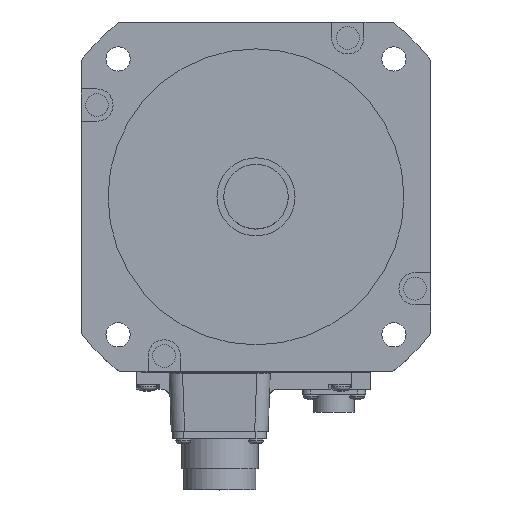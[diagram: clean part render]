
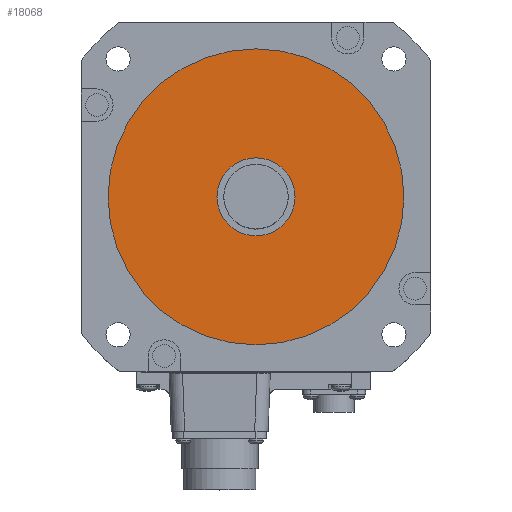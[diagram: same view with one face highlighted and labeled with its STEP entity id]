
A CAD part, top view. The second image highlights one B-rep face of the part: STEP entity #18068.
In plain terms, the highlighted planar face has unit normal (0, 0, 1).
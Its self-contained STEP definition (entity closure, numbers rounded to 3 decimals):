
#6530=CARTESIAN_POINT('',(0.,0.,3.));
#6531=DIRECTION('',(0.,0.,-1.));
#6532=DIRECTION('',(1.,0.,0.));
#6533=AXIS2_PLACEMENT_3D('',#6530,#6531,#6532);
#6535=CARTESIAN_POINT('',(0.,0.,3.));
#6536=DIRECTION('',(0.,0.,-1.));
#6537=DIRECTION('',(-1.,0.,0.));
#6538=AXIS2_PLACEMENT_3D('',#6535,#6536,#6537);
#6540=CARTESIAN_POINT('',(0.,0.,3.));
#6541=DIRECTION('',(0.,0.,1.));
#6542=DIRECTION('',(1.,0.,0.));
#6543=AXIS2_PLACEMENT_3D('',#6540,#6541,#6542);
#6545=CARTESIAN_POINT('',(0.,0.,3.));
#6546=DIRECTION('',(0.,0.,1.));
#6547=DIRECTION('',(-1.,0.,0.));
#6548=AXIS2_PLACEMENT_3D('',#6545,#6546,#6547);
#7320=CARTESIAN_POINT('',(55.,0.,3.));
#7321=VERTEX_POINT('',#7320);
#7322=CARTESIAN_POINT('',(-55.,0.,3.));
#7323=VERTEX_POINT('',#7322);
#8529=CARTESIAN_POINT('',(14.5,0.,3.));
#8530=CARTESIAN_POINT('',(-14.5,0.,3.));
#8531=VERTEX_POINT('',#8529);
#8532=VERTEX_POINT('',#8530);
#18052=CARTESIAN_POINT('',(0.,0.,3.));
#18053=DIRECTION('',(0.,0.,1.));
#18054=DIRECTION('',(1.,0.,0.));
#18055=AXIS2_PLACEMENT_3D('',#18052,#18053,#18054);
#18056=PLANE('',#18055);
#18057=ORIENTED_EDGE('',*,*,#18042,.T.);
#18059=ORIENTED_EDGE('',*,*,#18058,.T.);
#18060=EDGE_LOOP('',(#18057,#18059));
#18061=FACE_OUTER_BOUND('',#18060,.F.);
#18063=ORIENTED_EDGE('',*,*,#18062,.T.);
#18065=ORIENTED_EDGE('',*,*,#18064,.T.);
#18066=EDGE_LOOP('',(#18063,#18065));
#18067=FACE_BOUND('',#18066,.F.);
#18068=ADVANCED_FACE('',(#18061,#18067),#18056,.T.);
#6534=CIRCLE('',#6533,55.);
#6539=CIRCLE('',#6538,55.);
#6544=CIRCLE('',#6543,14.5);
#6549=CIRCLE('',#6548,14.5);
#18042=EDGE_CURVE('',#7321,#7323,#6534,.T.);
#18058=EDGE_CURVE('',#7323,#7321,#6539,.T.);
#18062=EDGE_CURVE('',#8531,#8532,#6544,.T.);
#18064=EDGE_CURVE('',#8532,#8531,#6549,.T.);
